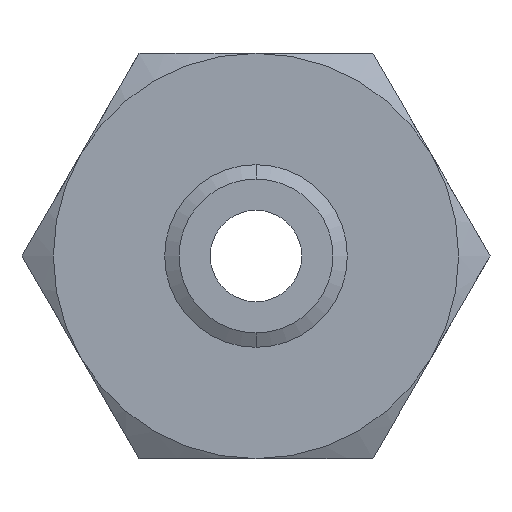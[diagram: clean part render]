
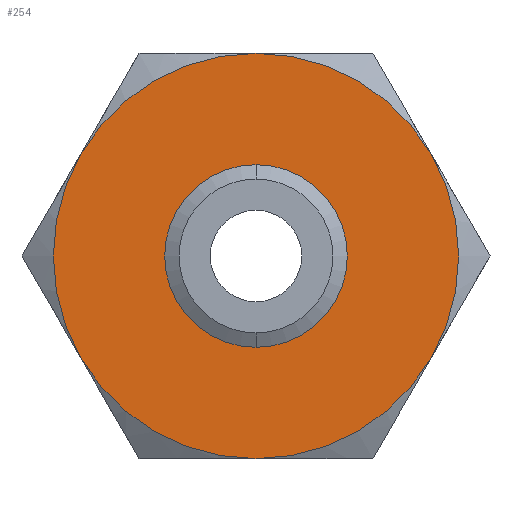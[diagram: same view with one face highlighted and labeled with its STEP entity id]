
A CAD part, front view. The second image highlights one B-rep face of the part: STEP entity #254.
In plain terms, the highlighted planar face has unit normal (0, -1, 0).
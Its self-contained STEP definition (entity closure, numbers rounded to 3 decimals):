
#203 = VERTEX_POINT ( 'NONE', #729 ) ;
#204 = ORIENTED_EDGE ( 'NONE', *, *, #205, .F. ) ;
#205 = EDGE_CURVE ( 'NONE', #206, #203, #727, .T. ) ;
#206 = VERTEX_POINT ( 'NONE', #728 ) ;
#207 = ORIENTED_EDGE ( 'NONE', *, *, #208, .F. ) ;
#208 = EDGE_CURVE ( 'NONE', #259, #206, #783, .T. ) ;
#209 = EDGE_LOOP ( 'NONE', ( #210, #211 ) ) ;
#210 = ORIENTED_EDGE ( 'NONE', *, *, #2099, .F. ) ;
#211 = ORIENTED_EDGE ( 'NONE', *, *, #212, .F. ) ;
#212 = EDGE_CURVE ( 'NONE', #2093, #2092, #777, .T. ) ;
#254 = ADVANCED_FACE ( 'NONE', ( #828, #827 ), #826, .F. ) ;
#255 = EDGE_LOOP ( 'NONE', ( #256, #260, #263, #266, #204, #207 ) ) ;
#256 = ORIENTED_EDGE ( 'NONE', *, *, #257, .F. ) ;
#257 = EDGE_CURVE ( 'NONE', #258, #259, #886, .T. ) ;
#258 = VERTEX_POINT ( 'NONE', #881 ) ;
#259 = VERTEX_POINT ( 'NONE', #880 ) ;
#260 = ORIENTED_EDGE ( 'NONE', *, *, #261, .F. ) ;
#261 = EDGE_CURVE ( 'NONE', #262, #258, #879, .T. ) ;
#262 = VERTEX_POINT ( 'NONE', #874 ) ;
#263 = ORIENTED_EDGE ( 'NONE', *, *, #264, .F. ) ;
#264 = EDGE_CURVE ( 'NONE', #265, #262, #873, .T. ) ;
#265 = VERTEX_POINT ( 'NONE', #868 ) ;
#266 = ORIENTED_EDGE ( 'NONE', *, *, #267, .F. ) ;
#267 = EDGE_CURVE ( 'NONE', #203, #265, #866, .T. ) ;
#726 = AXIS2_PLACEMENT_3D ( 'NONE', #786, #785, #784 ) ;
#727 = CIRCLE ( 'NONE', #726, 77.5 ) ;
#728 = CARTESIAN_POINT ( 'NONE',  ( 67.117, 0., -38.75 ) ) ;
#729 = CARTESIAN_POINT ( 'NONE',  ( 0., 0., -77.5 ) ) ;
#773 = DIRECTION ( 'NONE',  ( 0., 0., -1. ) ) ;
#774 = DIRECTION ( 'NONE',  ( 0., -1., 0. ) ) ;
#775 = CARTESIAN_POINT ( 'NONE',  ( 0., 0., 0. ) ) ;
#776 = AXIS2_PLACEMENT_3D ( 'NONE', #775, #774, #773 ) ;
#777 = CIRCLE ( 'NONE', #776, 29.426 ) ;
#778 = DIRECTION ( 'NONE',  ( 0., 0., 1. ) ) ;
#779 = DIRECTION ( 'NONE',  ( 0., 1., 0. ) ) ;
#780 = CARTESIAN_POINT ( 'NONE',  ( 0., 0., 0. ) ) ;
#781 = AXIS2_PLACEMENT_3D ( 'NONE', #780, #779, #778 ) ;
#783 = CIRCLE ( 'NONE', #781, 77.5 ) ;
#784 = DIRECTION ( 'NONE',  ( 0., 0., 1. ) ) ;
#785 = DIRECTION ( 'NONE',  ( 0., 1., 0. ) ) ;
#786 = CARTESIAN_POINT ( 'NONE',  ( 0., 0., 0. ) ) ;
#820 = DIRECTION ( 'NONE',  ( 0., 0., 1. ) ) ;
#821 = DIRECTION ( 'NONE',  ( 0., 1., 0. ) ) ;
#822 = CARTESIAN_POINT ( 'NONE',  ( 44.745, 0., -77.5 ) ) ;
#823 = AXIS2_PLACEMENT_3D ( 'NONE', #822, #821, #820 ) ;
#826 = PLANE ( 'NONE',  #823 ) ;
#827 = FACE_BOUND ( 'NONE', #209, .T. ) ;
#828 = FACE_OUTER_BOUND ( 'NONE', #255, .T. ) ;
#862 = DIRECTION ( 'NONE',  ( 0., 0., 1. ) ) ;
#863 = DIRECTION ( 'NONE',  ( 0., 1., 0. ) ) ;
#864 = CARTESIAN_POINT ( 'NONE',  ( 0., 0., 0. ) ) ;
#865 = AXIS2_PLACEMENT_3D ( 'NONE', #864, #863, #862 ) ;
#866 = CIRCLE ( 'NONE', #865, 77.5 ) ;
#868 = CARTESIAN_POINT ( 'NONE',  ( -67.117, 0., -38.75 ) ) ;
#869 = DIRECTION ( 'NONE',  ( 0., 0., 1. ) ) ;
#870 = DIRECTION ( 'NONE',  ( 0., 1., 0. ) ) ;
#871 = CARTESIAN_POINT ( 'NONE',  ( 0., 0., 0. ) ) ;
#872 = AXIS2_PLACEMENT_3D ( 'NONE', #871, #870, #869 ) ;
#873 = CIRCLE ( 'NONE', #872, 77.5 ) ;
#874 = CARTESIAN_POINT ( 'NONE',  ( -67.117, 0., 38.75 ) ) ;
#875 = DIRECTION ( 'NONE',  ( 0., 0., 1. ) ) ;
#876 = DIRECTION ( 'NONE',  ( 0., 1., 0. ) ) ;
#877 = CARTESIAN_POINT ( 'NONE',  ( 0., 0., 0. ) ) ;
#878 = AXIS2_PLACEMENT_3D ( 'NONE', #877, #876, #875 ) ;
#879 = CIRCLE ( 'NONE', #878, 77.5 ) ;
#880 = CARTESIAN_POINT ( 'NONE',  ( 67.117, 0., 38.75 ) ) ;
#881 = CARTESIAN_POINT ( 'NONE',  ( 0., 0., 77.5 ) ) ;
#882 = DIRECTION ( 'NONE',  ( 0., 0., 1. ) ) ;
#883 = DIRECTION ( 'NONE',  ( 0., 1., 0. ) ) ;
#884 = CARTESIAN_POINT ( 'NONE',  ( 0., 0., 0. ) ) ;
#885 = AXIS2_PLACEMENT_3D ( 'NONE', #884, #883, #882 ) ;
#886 = CIRCLE ( 'NONE', #885, 77.5 ) ;
#1212 = DIRECTION ( 'NONE',  ( 0., 0., -1. ) ) ;
#1213 = DIRECTION ( 'NONE',  ( 0., -1., 0. ) ) ;
#1214 = CARTESIAN_POINT ( 'NONE',  ( 0., 0., 0. ) ) ;
#1215 = AXIS2_PLACEMENT_3D ( 'NONE', #1214, #1213, #1212 ) ;
#1216 = CIRCLE ( 'NONE', #1215, 29.426 ) ;
#1225 = CARTESIAN_POINT ( 'NONE',  ( 0., 0., 29.426 ) ) ;
#1226 = CARTESIAN_POINT ( 'NONE',  ( 0., 0., -29.426 ) ) ;
#2092 = VERTEX_POINT ( 'NONE', #1226 ) ;
#2093 = VERTEX_POINT ( 'NONE', #1225 ) ;
#2099 = EDGE_CURVE ( 'NONE', #2092, #2093, #1216, .T. ) ;
